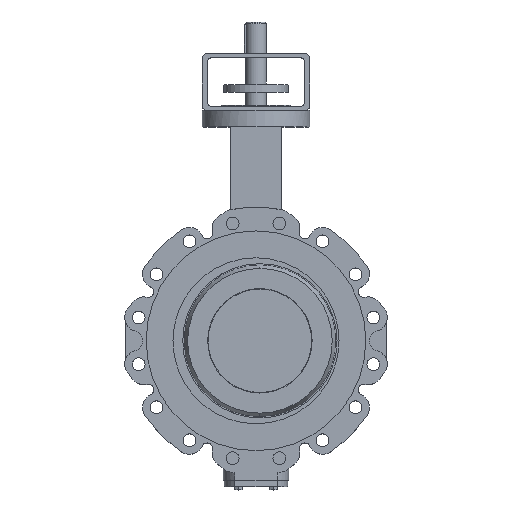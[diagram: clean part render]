
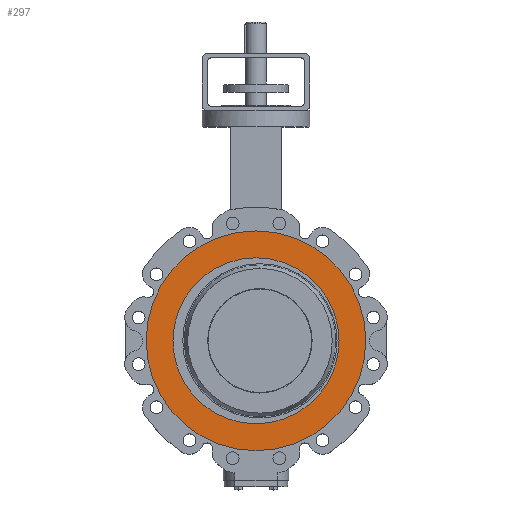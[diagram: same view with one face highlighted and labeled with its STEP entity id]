
A CAD part, top view. The second image highlights one B-rep face of the part: STEP entity #297.
In plain terms, the highlighted planar face has unit normal (0, 0, 1).
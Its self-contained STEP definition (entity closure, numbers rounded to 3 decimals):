
#297 = ADVANCED_FACE( '', ( #844, #845 ), #846, .T. );
#844 = FACE_BOUND( '', #1496, .T. );
#845 = FACE_OUTER_BOUND( '', #1497, .T. );
#846 = PLANE( '', #1498 );
#1496 = EDGE_LOOP( '', ( #3386, #3387, #3388 ) );
#1497 = EDGE_LOOP( '', ( #3389, #3390 ) );
#1498 = AXIS2_PLACEMENT_3D( '', #3391, #3392, #3393 );
#3386 = ORIENTED_EDGE( '', *, *, #4082, .F. );
#3387 = ORIENTED_EDGE( '', *, *, #4081, .F. );
#3388 = ORIENTED_EDGE( '', *, *, #4657, .F. );
#3389 = ORIENTED_EDGE( '', *, *, #4088, .T. );
#3390 = ORIENTED_EDGE( '', *, *, #4655, .T. );
#3391 = CARTESIAN_POINT( '', ( 0., 197.5, 63.5 ) );
#3392 = DIRECTION( '', ( 0., 0., 1. ) );
#3393 = DIRECTION( '', ( 0., 1., 0. ) );
#4081 = EDGE_CURVE( '', #4850, #4853, #4854, .T. );
#4082 = EDGE_CURVE( '', #4853, #4855, #4856, .T. );
#4088 = EDGE_CURVE( '', #4861, #4865, #4867, .T. );
#4655 = EDGE_CURVE( '', #4865, #4861, #5809, .T. );
#4657 = EDGE_CURVE( '', #4855, #4850, #5811, .T. );
#4850 = VERTEX_POINT( '', #6132 );
#4853 = VERTEX_POINT( '', #6136 );
#4854 = CIRCLE( '', #6137, 170. );
#4855 = VERTEX_POINT( '', #6138 );
#4856 = CIRCLE( '', #6139, 170. );
#4861 = VERTEX_POINT( '', #6145 );
#4865 = VERTEX_POINT( '', #6150 );
#4867 = CIRCLE( '', #6153, 225. );
#5809 = CIRCLE( '', #8005, 225. );
#5811 = CIRCLE( '', #8007, 170. );
#6132 = CARTESIAN_POINT( '', ( 170., 0., 63.5 ) );
#6136 = CARTESIAN_POINT( '', ( 0., 170., 63.5 ) );
#6137 = AXIS2_PLACEMENT_3D( '', #8511, #8512, #8513 );
#6138 = CARTESIAN_POINT( '', ( -170., 0., 63.5 ) );
#6139 = AXIS2_PLACEMENT_3D( '', #8514, #8515, #8516 );
#6145 = CARTESIAN_POINT( '', ( 0., 225., 63.5 ) );
#6150 = CARTESIAN_POINT( '', ( 0., -225., 63.5 ) );
#6153 = AXIS2_PLACEMENT_3D( '', #8526, #8527, #8528 );
#8005 = AXIS2_PLACEMENT_3D( '', #9569, #9570, #9571 );
#8007 = AXIS2_PLACEMENT_3D( '', #9575, #9576, #9577 );
#8511 = CARTESIAN_POINT( '', ( 0., 0., 63.5 ) );
#8512 = DIRECTION( '', ( 0., 0., 1. ) );
#8513 = DIRECTION( '', ( 0., 1., 0. ) );
#8514 = CARTESIAN_POINT( '', ( 0., 0., 63.5 ) );
#8515 = DIRECTION( '', ( 0., 0., 1. ) );
#8516 = DIRECTION( '', ( 0., 1., 0. ) );
#8526 = CARTESIAN_POINT( '', ( 0., 0., 63.5 ) );
#8527 = DIRECTION( '', ( 0., 0., 1. ) );
#8528 = DIRECTION( '', ( 0., 1., 0. ) );
#9569 = CARTESIAN_POINT( '', ( 0., 0., 63.5 ) );
#9570 = DIRECTION( '', ( 0., 0., 1. ) );
#9571 = DIRECTION( '', ( 0., 1., 0. ) );
#9575 = CARTESIAN_POINT( '', ( 0., 0., 63.5 ) );
#9576 = DIRECTION( '', ( 0., 0., 1. ) );
#9577 = DIRECTION( '', ( 0., 1., 0. ) );
